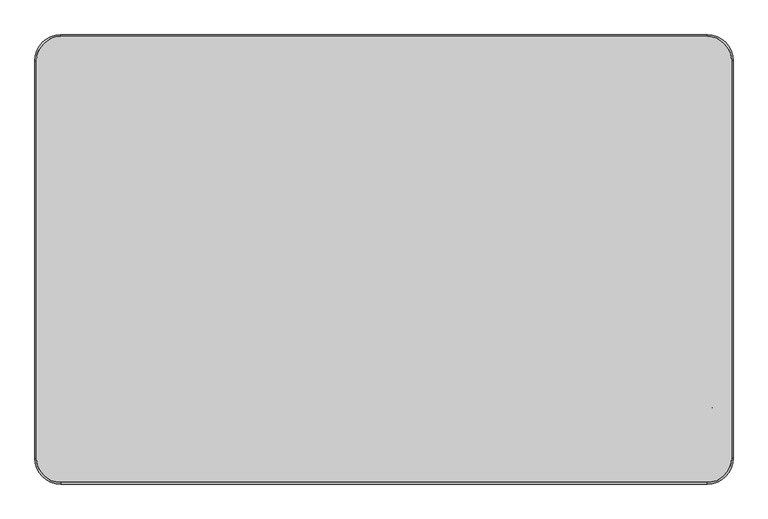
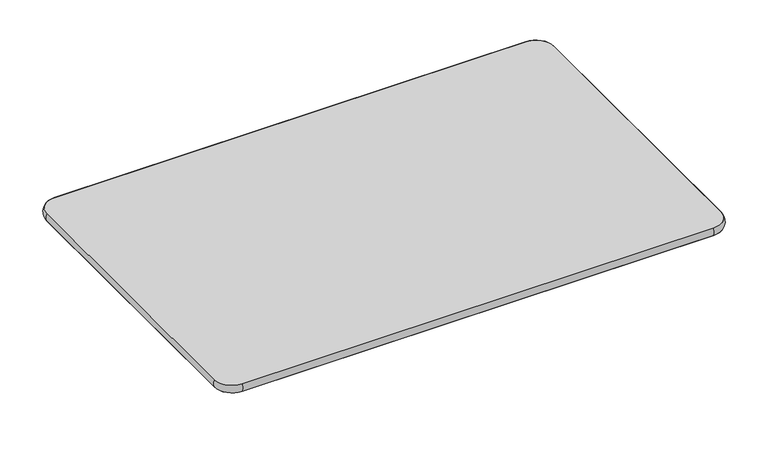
"""IFC4 building model written with IfcOpenShell, lengths in millimetres: furniture geometry, Mesa para refeitório : Mesa para refeitóio 120x77cm cód 70473."""

from ifc_helpers import new_model, si_unit, point, frame, frame_2d, origin, place, context, project, spatial, polyline, circle_curve, ellipse_curve, trimmed, segment, composite_curve, outline, extrude, source, transform, mapped, element, save
from ifc_brep_helpers import plane_surface, cylinder_surface, revolved_surface, advanced_brep


def furniture_35113301(model_context):
    return source(origin(), model_context, "Body", "SolidModel", [
        extrude(outline(composite_curve([segment(polyline([(-505.6618953, -127.5875081), (-567.0206397, -341.5708799), (-579.5170418, -337.9875943)]), True, "CONTINUOUS"), segment(trimmed(circle_curve(frame_2d((-578.138855, -333.1812858)), 5.0), [point((-579.5170418, -337.9875943))], [point((-582.9451635, -331.803099))], False, "CARTESIAN"), True, "CONTINUOUS"), segment(polyline([(-582.9451635, -331.803099), (-524.3872851, -127.5875081), (-505.6618953, -127.5875081)]), True, "CONTINUOUS")], self_intersect=False)), frame((0.0, 0.0, 740.0), z_axis=(0.0, 0.0, 1.0), x_axis=(1.0, 0.0, 0.0)), (0.0, 0.0, 1.0), 2.0),
        extrude(outline(composite_curve([segment(polyline([(505.6618953, 127.5875081), (567.0206397, 341.5708799), (579.5170418, 337.9875943)]), True, "CONTINUOUS"), segment(trimmed(circle_curve(frame_2d((578.138855, 333.1812858)), 5.0), [point((579.5170418, 337.9875943))], [point((582.9451635, 331.803099))], False, "CARTESIAN"), True, "CONTINUOUS"), segment(polyline([(582.9451635, 331.803099), (524.3872851, 127.5875081), (505.6618953, 127.5875081)]), True, "CONTINUOUS")], self_intersect=False)), frame((0.0, 0.0, 740.0), z_axis=(0.0, 0.0, 1.0), x_axis=(1.0, 0.0, 0.0)), (0.0, 0.0, 1.0), 2.0),
        extrude(outline(composite_curve([segment(polyline([(505.6618953, -127.5875081), (524.3872851, -127.5875081), (582.9451635, -331.803099)]), True, "CONTINUOUS"), segment(trimmed(circle_curve(frame_2d((578.138855, -333.1812858)), 5.0), [point((582.9451635, -331.803099))], [point((579.5170418, -337.9875943))], False, "CARTESIAN"), True, "CONTINUOUS"), segment(polyline([(579.5170418, -337.9875943), (567.0206397, -341.5708799), (505.6618953, -127.5875081)]), True, "CONTINUOUS")], self_intersect=False)), frame((0.0, 0.0, 740.0), z_axis=(0.0, 0.0, 1.0), x_axis=(1.0, 0.0, 0.0)), (0.0, 0.0, 1.0), 2.0),
        extrude(outline(composite_curve([segment(polyline([(505.6618953, -42.5875081), (523.7270534, -42.5875081), (523.7270534, -140.8530223)]), True, "CONTINUOUS"), segment(trimmed(circle_curve(frame_2d((518.7270534, -140.8530223)), 5.0), [point((523.7270534, -140.8530223))], [point((518.7270534, -145.8530223))], False, "CARTESIAN"), True, "CONTINUOUS"), segment(polyline([(518.7270534, -145.8530223), (505.6618953, -145.8530223), (505.6618953, -42.5875081)]), True, "CONTINUOUS")], self_intersect=False)), frame((0.0, 0.0, 740.0), z_axis=(0.0, 0.0, 1.0), x_axis=(1.0, 0.0, 0.0)), (0.0, 0.0, 1.0), 2.0),
        extrude(outline(polyline([(-499.6955742, 28.681337), (-499.6955742, -28.681337), (-501.5529394, -28.1300623), (-501.5529394, 28.1300623), (-499.6955742, 28.681337)])), frame((0.0, 0.0, 682.0), z_axis=(0.0, 0.0, 1.0), x_axis=(1.0, 0.0, 0.0)), (0.0, 0.0, 1.0), 60.0),
        extrude(outline(composite_curve([segment(polyline([(-60.1181829, 0.0), (0.0, 0.0), (0.0, -229.4943371)]), True, "CONTINUOUS"), segment(trimmed(circle_curve(frame_2d((-8.0489664, -229.4943371)), 8.0489664), [point((0.0, -229.4943371))], [point((-15.3438074, -232.8959773))], False, "CARTESIAN"), True, "CONTINUOUS"), segment(polyline([(-15.3438074, -232.8959773), (-60.1181829, 0.0)]), True, "CONTINUOUS")], self_intersect=False)), frame((-499.6955742, -28.681337, 742.0), z_axis=(-0.961261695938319, 0.2756373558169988, 0.0), x_axis=(0.0, 0.0, 1.0)), (0.0, 0.0, 1.0), 1.932216),
        extrude(outline(composite_curve([segment(polyline([(60.1181829, 0.0), (15.3438074, -232.8959773)]), True, "CONTINUOUS"), segment(trimmed(circle_curve(frame_2d((8.0489664, -229.4943371)), 8.0489664), [point((15.3438074, -232.8959773))], [point((0.0, -229.4943371))], False, "CARTESIAN"), True, "CONTINUOUS"), segment(polyline([(0.0, -229.4943371), (0.0, 0.0), (60.1181829, 0.0)]), True, "CONTINUOUS")], self_intersect=False)), frame((501.5162894, 28.1300623, 742.0), z_axis=(-0.961261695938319, 0.2756373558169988, 0.0), x_axis=(0.0, 0.0, -1.0)), (0.0, 0.0, 1.0), 2.0),
        extrude(outline(polyline([(499.593766, 28.681337), (501.5162894, 28.1300623), (501.5162894, -28.1300623), (499.593766, -28.681337), (499.593766, 28.681337)])), frame((0.0, 0.0, 682.0), z_axis=(0.0, 0.0, 1.0), x_axis=(1.0, 0.0, 0.0)), (0.0, 0.0, 1.0), 60.0),
        extrude(outline(composite_curve([segment(polyline([(-2.0, -20.0), (-2.0, -351.247878), (-15.0, -351.247878)]), True, "CONTINUOUS"), segment(trimmed(circle_curve(frame_2d((-15.0, -346.247878)), 5.0), [point((-15.0, -351.247878))], [point((-20.0, -346.247878))], False, "CARTESIAN"), True, "CONTINUOUS"), segment(polyline([(-20.0, -346.247878), (-20.0, -20.0), (-2.0, -20.0)]), True, "CONTINUOUS")], self_intersect=False)), frame((0.0, 0.0, 740.0), z_axis=(0.0, 0.0, 1.0), x_axis=(1.0, 0.0, 0.0)), (0.0, 0.0, 1.0), 2.0),
        extrude(outline(composite_curve([segment(polyline([(-20.0, 683.2373612), (-351.247878, 726.6561926)]), True, "CONTINUOUS"), segment(trimmed(circle_curve(frame_2d((-347.8462378, 733.9510336)), 8.0489664), [point((-351.247878, 726.6561926))], [point((-347.8462378, 742.0))], False, "CARTESIAN"), True, "CONTINUOUS"), segment(polyline([(-347.8462378, 742.0), (-20.0, 742.0), (-20.0, 683.2373612)]), True, "CONTINUOUS")], self_intersect=False)), frame((-2.0, 0.0, 0.0), z_axis=(1.0, 0.0, 0.0), x_axis=(0.0, 1.0, 0.0)), (0.0, 0.0, 1.0), 2.0),
        extrude(outline(composite_curve([segment(polyline([(0.0, 0.0), (237.1608757, 0.0)]), True, "CONTINUOUS"), segment(trimmed(circle_curve(frame_2d((235.1976245, -7.8058636)), 8.0489664), [point((237.1608757, 0.0))], [point((236.7172151, -15.7100843))], False, "CARTESIAN"), True, "CONTINUOUS"), segment(polyline([(236.7172151, -15.7100843), (11.3499079, -59.0370689), (0.0, 0.0)]), True, "CONTINUOUS")], self_intersect=False)), frame((499.593766, -28.681337, 681.8818171), z_axis=(0.9612616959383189, 0.27563735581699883, 0.0), x_axis=(0.2706805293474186, -0.943975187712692, 0.1887932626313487)), (0.0, 0.0, 1.0), 2.0),
        extrude(outline(composite_curve([segment(polyline([(-2.0, 20.0), (-20.0, 20.0), (-20.0, 346.247878)]), True, "CONTINUOUS"), segment(trimmed(circle_curve(frame_2d((-15.0, 346.247878)), 5.0), [point((-20.0, 346.247878))], [point((-15.0, 351.247878))], False, "CARTESIAN"), True, "CONTINUOUS"), segment(polyline([(-15.0, 351.247878), (-2.0, 351.247878), (-2.0, 20.0)]), True, "CONTINUOUS")], self_intersect=False)), frame((0.0, 0.0, 740.0), z_axis=(0.0, 0.0, 1.0), x_axis=(1.0, 0.0, 0.0)), (0.0, 0.0, 1.0), 2.0),
        extrude(outline(composite_curve([segment(polyline([(20.0, 683.2373612), (20.0, 742.0), (347.8462378, 742.0)]), True, "CONTINUOUS"), segment(trimmed(circle_curve(frame_2d((347.8462378, 733.9510336)), 8.0489664), [point((347.8462378, 742.0))], [point((351.247878, 726.6561926))], False, "CARTESIAN"), True, "CONTINUOUS"), segment(polyline([(351.247878, 726.6561926), (20.0, 683.2373612)]), True, "CONTINUOUS")], self_intersect=False)), frame((-2.0, 0.0, 0.0), z_axis=(1.0, 0.0, 0.0), x_axis=(0.0, 1.0, 0.0)), (0.0, 0.0, 1.0), 2.0),
        extrude(outline(polyline([(500.0651581, -20.0), (-500.0651581, -20.0), (-500.0651581, 20.0), (500.0651581, 20.0), (500.0651581, -20.0)])), frame((0.0, 0.0, 682.0), z_axis=(0.0, 0.0, 1.0), x_axis=(1.0, 0.0, 0.0)), (0.0, 0.0, 1.0), 60.0),
        advanced_brep(
        [(600.0, -343.1259063, 760.0), (558.1259063, -385.0, 760.0), (558.1259063, -385.0, 742.0), (600.0, -343.1259063, 742.0), (600.0, 343.1259063, 742.0), (600.0, 343.1259063, 760.0), (558.1259063, 385.0, 760.0), (558.1259063, 385.0, 742.0), (-558.2277145, 385.0, 742.0), (-558.2277145, 385.0, 760.0), (-600.0, 343.2277145, 760.0), (-600.0, 343.2277145, 742.0), (-600.0, -343.2277145, 742.0), (-600.0, -343.2277145, 760.0), (-558.2277145, -385.0, 760.0), (-558.2277145, -385.0, 742.0)],
        [
            (0, 1, circle_curve(frame((558.1259063, -343.1259063, 760.0), z_axis=(0.0, 0.0, -1.0), x_axis=(0.0, -1.0, 0.0)), 41.8740937)),
            (1, 2, circle_curve(frame((558.1259063, -371.6032084, 751.0), z_axis=(1.0, 0.0, 0.0), x_axis=(0.0, 1.0, 0.0)), 16.1392077)),
            (2, 3, circle_curve(frame((558.1259063, -343.1259063, 742.0), z_axis=(0.0, 0.0, 1.0), x_axis=(0.0, -1.0, 0.0)), 41.8740937)),
            (3, 0, circle_curve(frame((586.6032084, -343.1259063, 751.0), z_axis=(0.0, -1.0, 0.0), x_axis=(-1.0, 0.0, 0.0)), 16.1392077)),
            (2, 1),
            (0, 3),
            (3, 4),
            (4, 5, circle_curve(frame((586.6032084, 343.1259063, 751.0), z_axis=(0.0, -1.0, 0.0), x_axis=(-1.0, 0.0, 0.0)), 16.1392077)),
            (5, 0),
            (5, 4),
            (6, 5, circle_curve(frame((558.1259063, 343.1259063, 760.0), z_axis=(0.0, 0.0, -1.0), x_axis=(1.0, 0.0, 0.0)), 41.8740937)),
            (4, 7, circle_curve(frame((558.1259063, 343.1259063, 742.0), z_axis=(0.0, 0.0, 1.0), x_axis=(1.0, 0.0, 0.0)), 41.8740937)),
            (7, 6, circle_curve(frame((558.1259063, 371.6032084, 751.0), z_axis=(1.0, 0.0, 0.0), x_axis=(0.0, -1.0, 0.0)), 16.1392077)),
            (6, 7),
            (7, 8),
            (8, 9, circle_curve(frame((-558.2277145, 371.6032084, 751.0), z_axis=(1.0, 0.0, 0.0), x_axis=(0.0, -1.0, 0.0)), 16.1392077)),
            (9, 6),
            (9, 8),
            (10, 9, circle_curve(frame((-558.2277145, 343.2277145, 760.0), z_axis=(0.0, 0.0, -1.0), x_axis=(0.0, 1.0, 0.0)), 41.7722855)),
            (8, 11, circle_curve(frame((-558.2277145, 343.2277145, 742.0), z_axis=(0.0, 0.0, 1.0), x_axis=(0.0, 1.0, 0.0)), 41.7722855)),
            (11, 10, circle_curve(frame((-586.6032084, 343.2277145, 751.0), z_axis=(0.0, 1.0, 0.0), x_axis=(1.0, 0.0, 0.0)), 16.1392077)),
            (10, 11),
            (11, 12),
            (12, 13, circle_curve(frame((-586.6032084, -343.2277145, 751.0), z_axis=(0.0, 1.0, 0.0), x_axis=(1.0, 0.0, 0.0)), 16.1392077)),
            (13, 10),
            (13, 12),
            (14, 13, circle_curve(frame((-558.2277145, -343.2277145, 760.0), z_axis=(0.0, 0.0, -1.0), x_axis=(-1.0, 0.0, 0.0)), 41.7722855)),
            (12, 15, circle_curve(frame((-558.2277145, -343.2277145, 742.0), z_axis=(0.0, 0.0, 1.0), x_axis=(-1.0, 0.0, 0.0)), 41.7722855)),
            (15, 14, circle_curve(frame((-558.2277145, -371.6032084, 751.0), z_axis=(-1.0, 0.0, 0.0), x_axis=(0.0, 1.0, 0.0)), 16.1392077)),
            (14, 15),
            (15, 2),
            (1, 14),
        ],
        [
            revolved_surface(trimmed(ellipse_curve(frame((558.1259063, -371.6032084, 751.0), z_axis=(-1.0, 0.0, 0.0), x_axis=(0.0, 1.0, 0.0)), 16.1392077, 16.1392077), [point((558.1259063, -385.0, 742.0))], [point((558.1259063, -385.0, 760.0))], True, "CARTESIAN"), (558.1259063, -343.1259063, 760.0), (0.0, 0.0, 1.0)),
            revolved_surface(polyline([(558.1259063, -385.0, 760.0), (558.1259063, -385.0, 742.0)]), (558.1259063, -343.1259063, 760.0), (0.0, 0.0, 1.0)),
            cylinder_surface(frame((586.6032084, -343.1259063, 751.0), z_axis=(0.0, -1.0, 0.0), x_axis=(-1.0, 0.0, 0.0)), 16.1392077),
            plane_surface(frame((600.0, -343.1259063, 760.0), z_axis=(-1.0, 0.0, 0.0), x_axis=(0.0, 1.0, 0.0))),
            revolved_surface(trimmed(ellipse_curve(frame((586.6032084, 343.1259063, 751.0), z_axis=(0.0, -1.0, 0.0), x_axis=(-1.0, 0.0, 0.0)), 16.1392077, 16.1392077), [point((600.0, 343.1259063, 742.0))], [point((600.0, 343.1259063, 760.0))], True, "CARTESIAN"), (558.1259063, 343.1259063, 760.0), (0.0, 0.0, 1.0)),
            revolved_surface(polyline([(600.0, 343.1259063, 760.0), (600.0, 343.1259063, 742.0)]), (558.1259063, 343.1259063, 760.0), (0.0, 0.0, 1.0)),
            cylinder_surface(frame((558.1259063, 371.6032084, 751.0), z_axis=(1.0, 0.0, 0.0), x_axis=(0.0, -1.0, 0.0)), 16.1392077),
            plane_surface(frame((558.1259063, 385.0, 760.0), z_axis=(0.0, -1.0, 0.0), x_axis=(-1.0, 0.0, 0.0))),
            revolved_surface(trimmed(ellipse_curve(frame((-558.2277145, 371.6032084, 751.0), z_axis=(1.0, 0.0, 0.0), x_axis=(0.0, -1.0, 0.0)), 16.1392077, 16.1392077), [point((-558.2277145, 385.0, 742.0))], [point((-558.2277145, 385.0, 760.0))], True, "CARTESIAN"), (-558.2277145, 343.2277145, 760.0), (0.0, 0.0, 1.0)),
            revolved_surface(polyline([(-558.2277145, 385.0, 760.0), (-558.2277145, 385.0, 742.0)]), (-558.2277145, 343.2277145, 760.0), (0.0, 0.0, 1.0)),
            cylinder_surface(frame((-586.6032084, 343.2277145, 751.0), z_axis=(0.0, 1.0, 0.0), x_axis=(1.0, 0.0, 0.0)), 16.1392077),
            plane_surface(frame((-600.0, 343.2277145, 760.0), z_axis=(1.0, 0.0, 0.0), x_axis=(0.0, -1.0, 0.0))),
            revolved_surface(trimmed(ellipse_curve(frame((-586.6032084, -343.2277145, 751.0), z_axis=(0.0, 1.0, 0.0), x_axis=(1.0, 0.0, 0.0)), 16.1392077, 16.1392077), [point((-600.0, -343.2277145, 742.0))], [point((-600.0, -343.2277145, 760.0))], True, "CARTESIAN"), (-558.2277145, -343.2277145, 760.0), (0.0, 0.0, 1.0)),
            revolved_surface(polyline([(-600.0, -343.2277145, 760.0), (-600.0, -343.2277145, 742.0)]), (-558.2277145, -343.2277145, 760.0), (0.0, 0.0, 1.0)),
            cylinder_surface(frame((-558.2277145, -371.6032084, 751.0), z_axis=(-1.0, 0.0, 0.0), x_axis=(0.0, 1.0, 0.0)), 16.1392077),
            plane_surface(frame((-558.2277145, -385.0, 760.0), z_axis=(0.0, 1.0, 0.0), x_axis=(1.0, 0.0, 0.0))),
        ],
        [
            (0, [[1, 2, 3, 4]]),
            (1, [[-3, 5, -1, 6]]),
            (2, [[-4, 7, 8, 9]]),
            (3, [[-6, -9, 10, -7]]),
            (4, [[11, -8, 12, 13]]),
            (5, [[-12, -10, -11, 14]]),
            (6, [[-13, 15, 16, 17]]),
            (7, [[-14, -17, 18, -15]]),
            (8, [[19, -16, 20, 21]]),
            (9, [[-20, -18, -19, 22]]),
            (10, [[-21, 23, 24, 25]]),
            (11, [[-22, -25, 26, -23]]),
            (12, [[27, -24, 28, 29]]),
            (13, [[-28, -26, -27, 30]]),
            (14, [[-29, 31, -2, 32]]),
            (15, [[-30, -32, -5, -31]]),
        ],
    ),
        extrude(outline(composite_curve([segment(trimmed(circle_curve(frame_2d((558.1259063, 343.1259063)), 41.8740937), [point((558.1259063, 385.0))], [point((600.0, 343.1259063))], False, "CARTESIAN"), True, "CONTINUOUS"), segment(polyline([(600.0, 343.1259063), (600.0, -343.1259063)]), True, "CONTINUOUS"), segment(trimmed(circle_curve(frame_2d((558.1259063, -343.1259063)), 41.8740937), [point((600.0, -343.1259063))], [point((558.1259063, -385.0))], False, "CARTESIAN"), True, "CONTINUOUS"), segment(polyline([(558.1259063, -385.0), (-558.2277145, -385.0)]), True, "CONTINUOUS"), segment(trimmed(circle_curve(frame_2d((-558.2277145, -343.2277145)), 41.7722855), [point((-558.2277145, -385.0))], [point((-600.0, -343.2277145))], False, "CARTESIAN"), True, "CONTINUOUS"), segment(polyline([(-600.0, -343.2277145), (-600.0, 343.2277145)]), True, "CONTINUOUS"), segment(trimmed(circle_curve(frame_2d((-558.2277145, 343.2277145)), 41.7722855), [point((-600.0, 343.2277145))], [point((-558.2277145, 385.0))], False, "CARTESIAN"), True, "CONTINUOUS"), segment(polyline([(-558.2277145, 385.0), (558.1259063, 385.0)]), True, "CONTINUOUS")], self_intersect=False)), frame((0.0, 0.0, 742.0), z_axis=(0.0, 0.0, 1.0), x_axis=(1.0, 0.0, 0.0)), (0.0, 0.0, 1.0), 18.0),
    ])


if __name__ == "__main__":
    model = new_model("IFC4")
    model_context = context("Model", 3, world=origin())
    ifc_project = project(units=[si_unit("LENGTHUNIT", "METRE", prefix="MILLI")], contexts=[model_context])
    site = spatial("IfcSite", under=ifc_project)
    building = spatial("IfcBuilding", under=site)
    placement = place(None, origin())
    furniture_shape = furniture_35113301(model_context)
    element("IfcFurniture", 1, ObjectType="Mesa para refeitório : Mesa para refeitóio 120x77cm cód 70473", at=placement, inside=building, context=model_context, shape_type="MappedRepresentation", body=[
        mapped(furniture_shape, transform((0.0, 0.0, 0.0), x_axis=(1.0, 0.0, 0.0), y_axis=(0.0, 1.0, 0.0), z_axis=(0.0, 0.0, 1.0))),
    ])
    save(model, "model.ifc")
